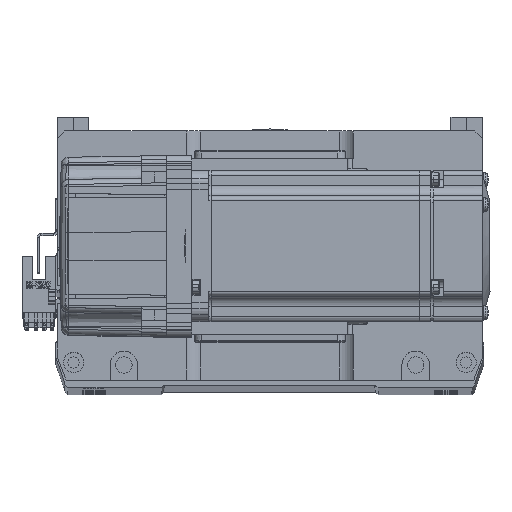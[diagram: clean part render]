
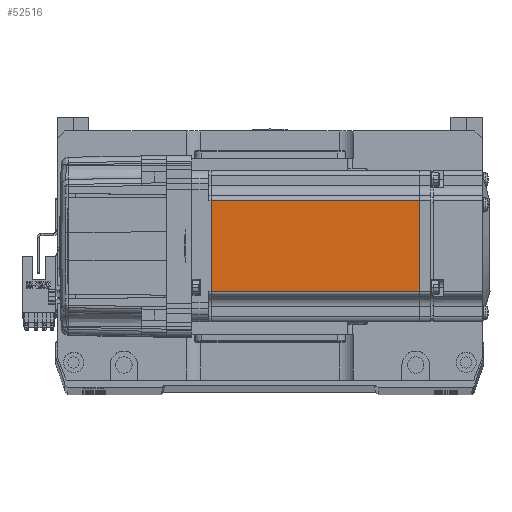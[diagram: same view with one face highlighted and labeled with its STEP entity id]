
A CAD part, top view. The second image highlights one B-rep face of the part: STEP entity #52516.
In plain terms, the highlighted planar face has unit normal (0, 0, 1) as drawn and (0, -1, 0) by its records, which use the part's own axes.
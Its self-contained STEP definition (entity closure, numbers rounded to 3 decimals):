
#2008 = LINE ( 'NONE', #21479, #31971 ) ;
#2565 = VERTEX_POINT ( 'NONE', #31779 ) ;
#6284 = DIRECTION ( 'NONE',  ( 0., 0., 1. ) ) ;
#6938 = EDGE_LOOP ( 'NONE', ( #42087, #10028, #38441, #37384 ) ) ;
#10028 = ORIENTED_EDGE ( 'NONE', *, *, #31190, .T. ) ;
#10056 = CARTESIAN_POINT ( 'NONE',  ( -6.5, -30., 18. ) ) ;
#15335 = DIRECTION ( 'NONE',  ( 0., -1., 0. ) ) ;
#15884 = VERTEX_POINT ( 'NONE', #53107 ) ;
#17052 = LINE ( 'NONE', #55434, #28883 ) ;
#19260 = DIRECTION ( 'NONE',  ( -1., 0., 0. ) ) ;
#21479 = CARTESIAN_POINT ( 'NONE',  ( -7.75, -30., -25. ) ) ;
#28883 = VECTOR ( 'NONE', #35301, 1000. ) ;
#29285 = LINE ( 'NONE', #51832, #42011 ) ;
#30555 = DIRECTION ( 'NONE',  ( 0., 0., -1. ) ) ;
#31190 = EDGE_CURVE ( 'NONE', #15884, #2565, #32997, .T. ) ;
#31779 = CARTESIAN_POINT ( 'NONE',  ( -90.45, -30., 18. ) ) ;
#31971 = VECTOR ( 'NONE', #6284, 1000. ) ;
#32076 = DIRECTION ( 'NONE',  ( 0., 0., -1. ) ) ;
#32683 = EDGE_CURVE ( 'NONE', #33063, #15884, #2008, .T. ) ;
#32997 = LINE ( 'NONE', #10056, #51259 ) ;
#33063 = VERTEX_POINT ( 'NONE', #49716 ) ;
#35301 = DIRECTION ( 'NONE',  ( 1., 0., 0. ) ) ;
#35688 = PLANE ( 'NONE',  #38435 ) ;
#37384 = ORIENTED_EDGE ( 'NONE', *, *, #64330, .T. ) ;
#38435 = AXIS2_PLACEMENT_3D ( 'NONE', #61514, #15335, #30555 ) ;
#38441 = ORIENTED_EDGE ( 'NONE', *, *, #52599, .T. ) ;
#40449 = CARTESIAN_POINT ( 'NONE',  ( -90.45, -30., -18. ) ) ;
#42011 = VECTOR ( 'NONE', #32076, 1000. ) ;
#42087 = ORIENTED_EDGE ( 'NONE', *, *, #32683, .T. ) ;
#49716 = CARTESIAN_POINT ( 'NONE',  ( -7.75, -30., -18. ) ) ;
#51259 = VECTOR ( 'NONE', #19260, 1000. ) ;
#51832 = CARTESIAN_POINT ( 'NONE',  ( -90.45, -30., -25. ) ) ;
#52516 = ADVANCED_FACE ( 'NONE', ( #64864 ), #35688, .T. ) ;
#52599 = EDGE_CURVE ( 'NONE', #2565, #64000, #29285, .T. ) ;
#53107 = CARTESIAN_POINT ( 'NONE',  ( -7.75, -30., 18. ) ) ;
#55434 = CARTESIAN_POINT ( 'NONE',  ( -6.5, -30., -18. ) ) ;
#61514 = CARTESIAN_POINT ( 'NONE',  ( -6.5, -30., -25. ) ) ;
#64000 = VERTEX_POINT ( 'NONE', #40449 ) ;
#64330 = EDGE_CURVE ( 'NONE', #64000, #33063, #17052, .T. ) ;
#64864 = FACE_OUTER_BOUND ( 'NONE', #6938, .T. ) ;
